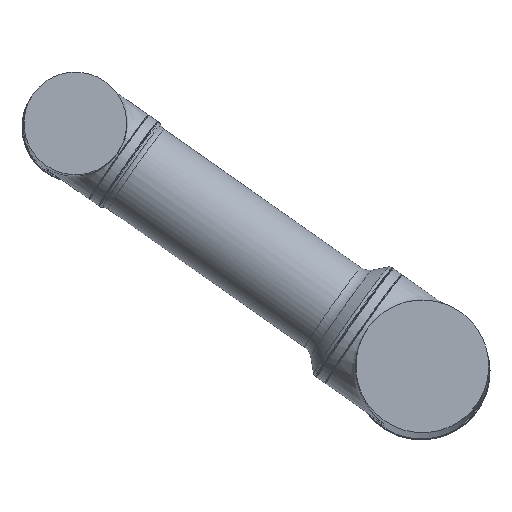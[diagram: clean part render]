
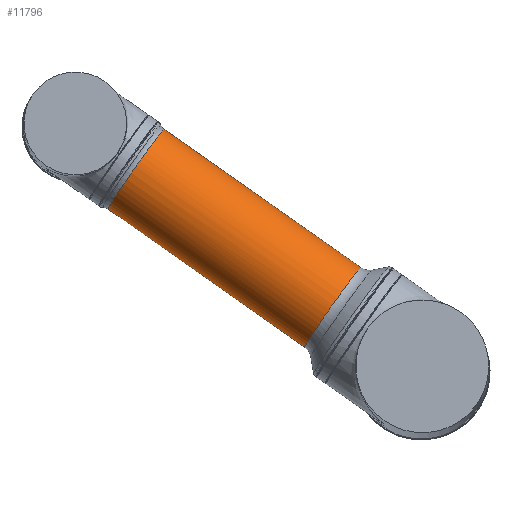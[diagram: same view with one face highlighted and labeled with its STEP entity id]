
A CAD part, left-side view. The second image highlights one B-rep face of the part: STEP entity #11796.
In plain terms, the highlighted cylindrical face has radius 55 mm (diameter 110 mm), a full revolution.
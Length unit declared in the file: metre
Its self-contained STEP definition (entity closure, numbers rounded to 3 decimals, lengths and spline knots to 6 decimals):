
#301=CYLINDRICAL_SURFACE('',#14138,0.055);
#1084=B_SPLINE_CURVE_WITH_KNOTS('',3,(#16213,#16214,#16215,#16216,#16217,
#16218,#16219),.UNSPECIFIED.,.F.,.F.,(4,1,1,1,4),(270.,292.5,315.,337.5,
360.),.UNSPECIFIED.);
#1085=B_SPLINE_CURVE_WITH_KNOTS('',3,(#16222,#16223,#16224,#16225,#16226,
#16227,#16228),.UNSPECIFIED.,.F.,.F.,(4,1,1,1,4),(180.,202.5,225.,247.5,
270.),.UNSPECIFIED.);
#1086=B_SPLINE_CURVE_WITH_KNOTS('',3,(#16230,#16231,#16232,#16233,#16234,
#16235,#16236),.UNSPECIFIED.,.F.,.F.,(4,1,1,1,4),(90.,112.5,135.,157.5,
180.),.UNSPECIFIED.);
#1087=B_SPLINE_CURVE_WITH_KNOTS('',3,(#16238,#16239,#16240,#16241,#16242,
#16243,#16244),.UNSPECIFIED.,.F.,.F.,(4,1,1,1,4),(0.,22.5,45.,67.5,90.),
 .UNSPECIFIED.);
#1088=B_SPLINE_CURVE_WITH_KNOTS('',3,(#16246,#16247,#16248,#16249,#16250,
#16251,#16252),.UNSPECIFIED.,.F.,.F.,(4,1,1,1,4),(270.,292.5,315.,337.5,
360.),.UNSPECIFIED.);
#1089=B_SPLINE_CURVE_WITH_KNOTS('',3,(#16255,#16256,#16257,#16258,#16259,
#16260,#16261),.UNSPECIFIED.,.F.,.F.,(4,1,1,1,4),(180.,202.5,225.,247.5,
270.),.UNSPECIFIED.);
#1090=B_SPLINE_CURVE_WITH_KNOTS('',3,(#16263,#16264,#16265,#16266,#16267,
#16268,#16269),.UNSPECIFIED.,.F.,.F.,(4,1,1,1,4),(90.,112.5,135.,157.5,
180.),.UNSPECIFIED.);
#1091=B_SPLINE_CURVE_WITH_KNOTS('',3,(#16271,#16272,#16273,#16274,#16275,
#16276,#16277),.UNSPECIFIED.,.F.,.F.,(4,1,1,1,4),(0.,22.5,45.,67.5,90.),
 .UNSPECIFIED.);
#2925=ORIENTED_EDGE('',*,*,#6445,.T.);
#2926=ORIENTED_EDGE('',*,*,#6448,.T.);
#2927=ORIENTED_EDGE('',*,*,#6447,.T.);
#2928=ORIENTED_EDGE('',*,*,#6446,.T.);
#2929=ORIENTED_EDGE('',*,*,#6452,.T.);
#2930=ORIENTED_EDGE('',*,*,#6451,.T.);
#2931=ORIENTED_EDGE('',*,*,#6450,.T.);
#2932=ORIENTED_EDGE('',*,*,#6449,.T.);
#6445=EDGE_CURVE('NONE',#8360,#8361,#1084,.T.);
#6446=EDGE_CURVE('NONE',#8362,#8360,#1085,.T.);
#6447=EDGE_CURVE('NONE',#8363,#8362,#1086,.T.);
#6448=EDGE_CURVE('NONE',#8361,#8363,#1087,.T.);
#6449=EDGE_CURVE('NONE',#8364,#8365,#1088,.T.);
#6450=EDGE_CURVE('NONE',#8366,#8364,#1089,.T.);
#6451=EDGE_CURVE('NONE',#8367,#8366,#1090,.T.);
#6452=EDGE_CURVE('NONE',#8365,#8367,#1091,.T.);
#8360=VERTEX_POINT('',#16220);
#8361=VERTEX_POINT('',#16221);
#8362=VERTEX_POINT('',#16229);
#8363=VERTEX_POINT('',#16237);
#8364=VERTEX_POINT('',#16253);
#8365=VERTEX_POINT('',#16254);
#8366=VERTEX_POINT('',#16262);
#8367=VERTEX_POINT('',#16270);
#9913=EDGE_LOOP('',(#2925,#2926,#2927,#2928));
#9914=EDGE_LOOP('',(#2929,#2930,#2931,#2932));
#10689=FACE_BOUND('',#9913,.T.);
#10690=FACE_BOUND('',#9914,.T.);
#11796=ADVANCED_FACE('NONE',(#10689,#10690),#301,.T.);
#14138=AXIS2_PLACEMENT_3D('',#21130,#14819,#14820);
#14819=DIRECTION('',(0.032,0.818,0.575));
#14820=DIRECTION('',(0.998,0.,-0.055));
#16213=CARTESIAN_POINT('',(0.185735,0.535113,0.17219));
#16214=CARTESIAN_POINT('',(0.192924,0.535113,0.171795));
#16215=CARTESIAN_POINT('',(0.207426,0.533465,0.173343));
#16216=CARTESIAN_POINT('',(0.226257,0.526426,0.182327));
#16217=CARTESIAN_POINT('',(0.239293,0.51589,0.196606));
#16218=CARTESIAN_POINT('',(0.242799,0.507606,0.208204));
#16219=CARTESIAN_POINT('',(0.243122,0.503463,0.214083));
#16220=CARTESIAN_POINT('',(0.185735,0.535113,0.17219));
#16221=CARTESIAN_POINT('',(0.243122,0.503463,0.214083));
#16222=CARTESIAN_POINT('',(0.133288,0.503463,0.220123));
#16223=CARTESIAN_POINT('',(0.132965,0.507606,0.214244));
#16224=CARTESIAN_POINT('',(0.135178,0.51589,0.202331));
#16225=CARTESIAN_POINT('',(0.14657,0.526426,0.186709));
#16226=CARTESIAN_POINT('',(0.164301,0.533465,0.175715));
#16227=CARTESIAN_POINT('',(0.178547,0.535113,0.172586));
#16228=CARTESIAN_POINT('',(0.185735,0.535113,0.17219));
#16229=CARTESIAN_POINT('',(0.133288,0.503463,0.220123));
#16230=CARTESIAN_POINT('',(0.190675,0.471813,0.262016));
#16231=CARTESIAN_POINT('',(0.183487,0.471813,0.262411));
#16232=CARTESIAN_POINT('',(0.168984,0.473461,0.260863));
#16233=CARTESIAN_POINT('',(0.150154,0.4805,0.251879));
#16234=CARTESIAN_POINT('',(0.137117,0.491036,0.2376));
#16235=CARTESIAN_POINT('',(0.133612,0.49932,0.226002));
#16236=CARTESIAN_POINT('',(0.133288,0.503463,0.220123));
#16237=CARTESIAN_POINT('',(0.190675,0.471813,0.262016));
#16238=CARTESIAN_POINT('',(0.243122,0.503463,0.214083));
#16239=CARTESIAN_POINT('',(0.243446,0.49932,0.219962));
#16240=CARTESIAN_POINT('',(0.241233,0.491036,0.231875));
#16241=CARTESIAN_POINT('',(0.22984,0.4805,0.247497));
#16242=CARTESIAN_POINT('',(0.212109,0.473461,0.258492));
#16243=CARTESIAN_POINT('',(0.197864,0.471813,0.261621));
#16244=CARTESIAN_POINT('',(0.190675,0.471813,0.262016));
#16246=CARTESIAN_POINT('',(0.182108,0.250086,0.106235));
#16247=CARTESIAN_POINT('',(0.189297,0.250086,0.105839));
#16248=CARTESIAN_POINT('',(0.203542,0.251734,0.10271));
#16249=CARTESIAN_POINT('',(0.221273,0.258773,0.091716));
#16250=CARTESIAN_POINT('',(0.232666,0.269309,0.076093));
#16251=CARTESIAN_POINT('',(0.234879,0.277593,0.064181));
#16252=CARTESIAN_POINT('',(0.234555,0.281736,0.058302));
#16253=CARTESIAN_POINT('',(0.182108,0.250086,0.106235));
#16254=CARTESIAN_POINT('',(0.234555,0.281736,0.058302));
#16255=CARTESIAN_POINT('',(0.124721,0.281736,0.064342));
#16256=CARTESIAN_POINT('',(0.125045,0.277593,0.070221));
#16257=CARTESIAN_POINT('',(0.12855,0.269309,0.081819));
#16258=CARTESIAN_POINT('',(0.141587,0.258773,0.096098));
#16259=CARTESIAN_POINT('',(0.160417,0.251734,0.105082));
#16260=CARTESIAN_POINT('',(0.17492,0.250086,0.10663));
#16261=CARTESIAN_POINT('',(0.182108,0.250086,0.106235));
#16262=CARTESIAN_POINT('',(0.124721,0.281736,0.064342));
#16263=CARTESIAN_POINT('',(0.177168,0.313386,0.016409));
#16264=CARTESIAN_POINT('',(0.16998,0.313386,0.016804));
#16265=CARTESIAN_POINT('',(0.155734,0.311738,0.019933));
#16266=CARTESIAN_POINT('',(0.138003,0.304699,0.030928));
#16267=CARTESIAN_POINT('',(0.126611,0.294163,0.04655));
#16268=CARTESIAN_POINT('',(0.124398,0.285879,0.058463));
#16269=CARTESIAN_POINT('',(0.124721,0.281736,0.064342));
#16270=CARTESIAN_POINT('',(0.177168,0.313386,0.016409));
#16271=CARTESIAN_POINT('',(0.234555,0.281736,0.058302));
#16272=CARTESIAN_POINT('',(0.234232,0.285879,0.052423));
#16273=CARTESIAN_POINT('',(0.230726,0.294163,0.040824));
#16274=CARTESIAN_POINT('',(0.21769,0.304699,0.026546));
#16275=CARTESIAN_POINT('',(0.198859,0.311738,0.017562));
#16276=CARTESIAN_POINT('',(0.184357,0.313386,0.016014));
#16277=CARTESIAN_POINT('',(0.177168,0.313386,0.016409));
#21130=CARTESIAN_POINT('',(0.178623,0.25545,0.042853));
